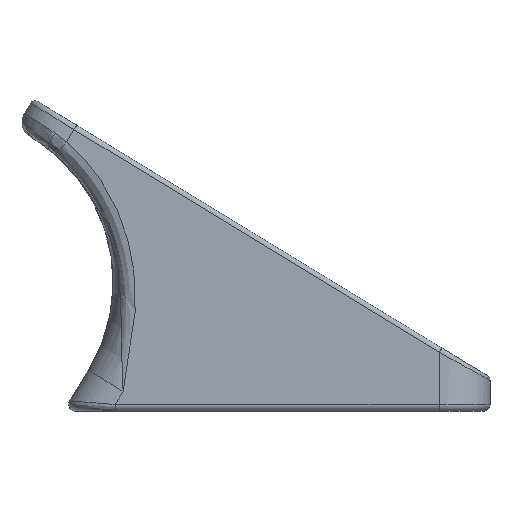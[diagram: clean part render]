
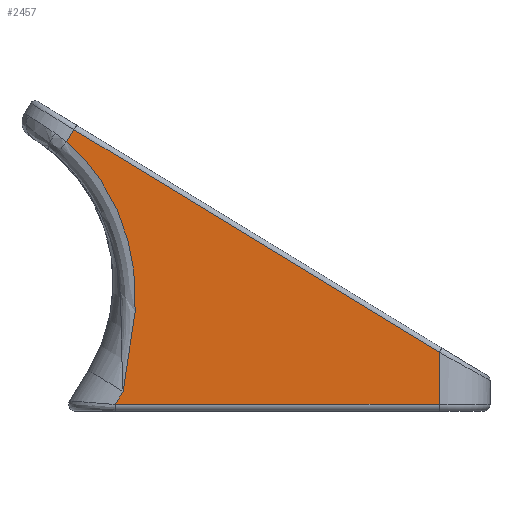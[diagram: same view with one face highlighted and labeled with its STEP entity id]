
A CAD part, left-side view. The second image highlights one B-rep face of the part: STEP entity #2457.
In plain terms, the highlighted planar face has unit normal (-1, 0, 0).
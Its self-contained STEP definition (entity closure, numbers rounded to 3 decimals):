
#46=B_SPLINE_CURVE_WITH_KNOTS('',3,(#5028,#5029,#5030,#5031,#5032,#5033,
#5034,#5035,#5036,#5037,#5038,#5039,#5040,#5041,#5042,#5043,#5044,#5045,
#5046),.UNSPECIFIED.,.F.,.F.,(4,2,1,1,1,1,1,1,1,1,1,1,1,1,1,4),(-0.003,
0.,0.796,1.593,1.991,2.389,2.787,
3.185,3.584,3.982,4.38,4.778,
5.574,6.371,7.167,7.963),
 .UNSPECIFIED.);
#134=PLANE('',#2721);
#237=FACE_OUTER_BOUND('',#393,.T.);
#393=EDGE_LOOP('',(#1929,#1930,#1931,#1932,#1933,#1934));
#485=LINE('',#3732,#644);
#526=LINE('',#5603,#685);
#529=LINE('',#5658,#688);
#531=LINE('',#5662,#690);
#532=LINE('',#5663,#691);
#644=VECTOR('',#2928,10.);
#685=VECTOR('',#3247,10.);
#688=VECTOR('',#3262,10.);
#690=VECTOR('',#3268,10.);
#691=VECTOR('',#3269,10.);
#968=VERTEX_POINT('',#3722);
#970=VERTEX_POINT('',#3728);
#1054=VERTEX_POINT('',#4900);
#1057=VERTEX_POINT('',#5008);
#1084=VERTEX_POINT('',#5593);
#1086=VERTEX_POINT('',#5599);
#1215=EDGE_CURVE('',#968,#970,#485,.T.);
#1340=EDGE_CURVE('',#1057,#1054,#46,.T.);
#1389=EDGE_CURVE('',#1084,#1086,#526,.T.);
#1396=EDGE_CURVE('',#1086,#1057,#529,.T.);
#1399=EDGE_CURVE('',#1054,#968,#531,.T.);
#1400=EDGE_CURVE('',#970,#1084,#532,.T.);
#1929=ORIENTED_EDGE('',*,*,#1215,.F.);
#1930=ORIENTED_EDGE('',*,*,#1399,.F.);
#1931=ORIENTED_EDGE('',*,*,#1340,.F.);
#1932=ORIENTED_EDGE('',*,*,#1396,.F.);
#1933=ORIENTED_EDGE('',*,*,#1389,.F.);
#1934=ORIENTED_EDGE('',*,*,#1400,.F.);
#2457=ADVANCED_FACE('',(#237),#134,.T.);
#2721=AXIS2_PLACEMENT_3D('',#5661,#3266,#3267);
#2928=DIRECTION('',(0.,-0.854,-0.521));
#3247=DIRECTION('',(0.,1.,0.));
#3262=DIRECTION('',(0.,-0.521,0.854));
#3266=DIRECTION('center_axis',(-1.,0.,0.));
#3267=DIRECTION('ref_axis',(0.,0.,1.));
#3268=DIRECTION('',(0.,-0.521,0.854));
#3269=DIRECTION('',(0.,0.,-1.));
#3722=CARTESIAN_POINT('',(-1.,122.871,73.171));
#3728=CARTESIAN_POINT('',(-1.,15.,7.39));
#3732=CARTESIAN_POINT('',(-1.,101.953,60.415));
#4900=CARTESIAN_POINT('',(-1.,125.069,69.567));
#5008=CARTESIAN_POINT('',(-1.,108.368,-4.192));
#5028=CARTESIAN_POINT('Ctrl Pts',(-1.,108.368,-4.192));
#5029=CARTESIAN_POINT('Ctrl Pts',(-1.,108.366,-4.182));
#5030=CARTESIAN_POINT('Ctrl Pts',(-1.,108.364,-4.172));
#5031=CARTESIAN_POINT('Ctrl Pts',(-1.,107.821,-1.563));
#5032=CARTESIAN_POINT('Ctrl Pts',(-1.,106.74,3.641));
#5033=CARTESIAN_POINT('Ctrl Pts',(-1.,105.643,10.19));
#5034=CARTESIAN_POINT('Ctrl Pts',(-1.,105.048,15.465));
#5035=CARTESIAN_POINT('Ctrl Pts',(-1.,104.768,19.453));
#5036=CARTESIAN_POINT('Ctrl Pts',(-1.,104.68,23.449));
#5037=CARTESIAN_POINT('Ctrl Pts',(-1.,104.804,27.444));
#5038=CARTESIAN_POINT('Ctrl Pts',(-1.,105.152,31.412));
#5039=CARTESIAN_POINT('Ctrl Pts',(-1.,105.737,35.36));
#5040=CARTESIAN_POINT('Ctrl Pts',(-1.,106.571,39.285));
#5041=CARTESIAN_POINT('Ctrl Pts',(-1.,108.021,44.443));
#5042=CARTESIAN_POINT('Ctrl Pts',(-1.,110.465,50.673));
#5043=CARTESIAN_POINT('Ctrl Pts',(-1.,114.358,57.641));
#5044=CARTESIAN_POINT('Ctrl Pts',(-1.,119.243,64.082));
#5045=CARTESIAN_POINT('Ctrl Pts',(-1.,123.053,67.84));
#5046=CARTESIAN_POINT('Ctrl Pts',(-1.,125.069,69.567));
#5593=CARTESIAN_POINT('',(-1.,15.,-8.));
#5599=CARTESIAN_POINT('',(-1.,110.69,-8.));
#5603=CARTESIAN_POINT('',(-1.,33.724,-8.));
#5658=CARTESIAN_POINT('',(-1.,96.424,15.393));
#5661=CARTESIAN_POINT('Origin',(-1.,67.448,41.131));
#5662=CARTESIAN_POINT('',(-1.,122.09,74.452));
#5663=CARTESIAN_POINT('',(-1.,15.,20.565));
